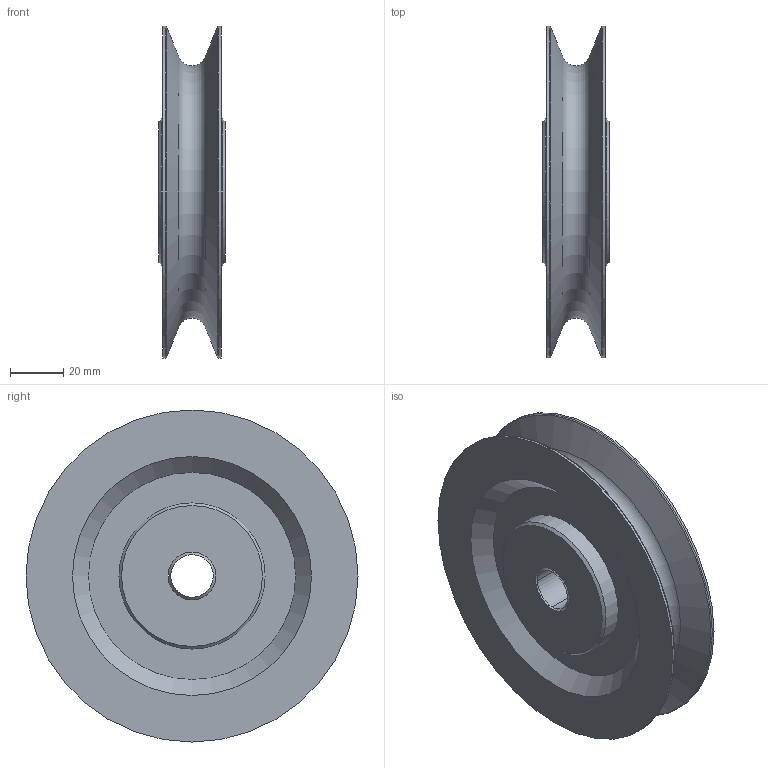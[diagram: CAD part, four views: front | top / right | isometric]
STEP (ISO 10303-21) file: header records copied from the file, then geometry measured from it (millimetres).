
FILE_DESCRIPTION(/* description */ ('Seilrolle ø125 Buchse komplett'),/* implementation_level */ '2;1');
FILE_NAME(/* name */ 'Z:\Workspace\03 Seilrollen\1.401 Seilrollen Gleitlager\1.401.04 Seilrolle ø 125 Buchse\1.401.04 Seilrolle ø125 Buchse komplett.stp',/* time_stamp */ '2021-10-04T10:09:05+02:00',/* author */ ('cad-user'),/* organization */ (''),/* preprocessor_version */ 'ST-DEVELOPER v18',/* originating_system */ 'Autodesk Inventor 2020',/* authorisation */ '');
FILE_SCHEMA (('AUTOMOTIVE_DESIGN { 1 0 10303 214 3 1 1 }'));
Length unit declared in the file: millimetre
Products named in the file (3): 1.401.04 Seilrolle ø125 Buchse komplett; 1.401.04 Seilrolle ø125 Buchse; Lagerbuchse 1625-DU
Assembly tree (2 placements, depth 2):
  1.401.04 Seilrolle ø125 Buchse komplett
    1.401.04 Seilrolle ø125 Buchse
    Lagerbuchse 1625-DU
Bounding box: 25 x 125 x 125 mm (x, y, z)
Volume: 164684.3 mm3; surface area: 45649.4 mm2
Topology: 2 solids, 2 shells, 29 faces, 77 edges, 54 vertices
Faces by surface type: cone 10, cylinder 8, plane 8, torus 3
Full cylindrical faces by diameter (mm): 18 x1, 55 x2, 125 x2
Entity records: 1068 total; most frequent: DIRECTION 196, CARTESIAN_POINT 173, ORIENTED_EDGE 154, AXIS2_PLACEMENT_3D 89, EDGE_CURVE 77, CIRCLE 55, VERTEX_POINT 54, EDGE_LOOP 35
